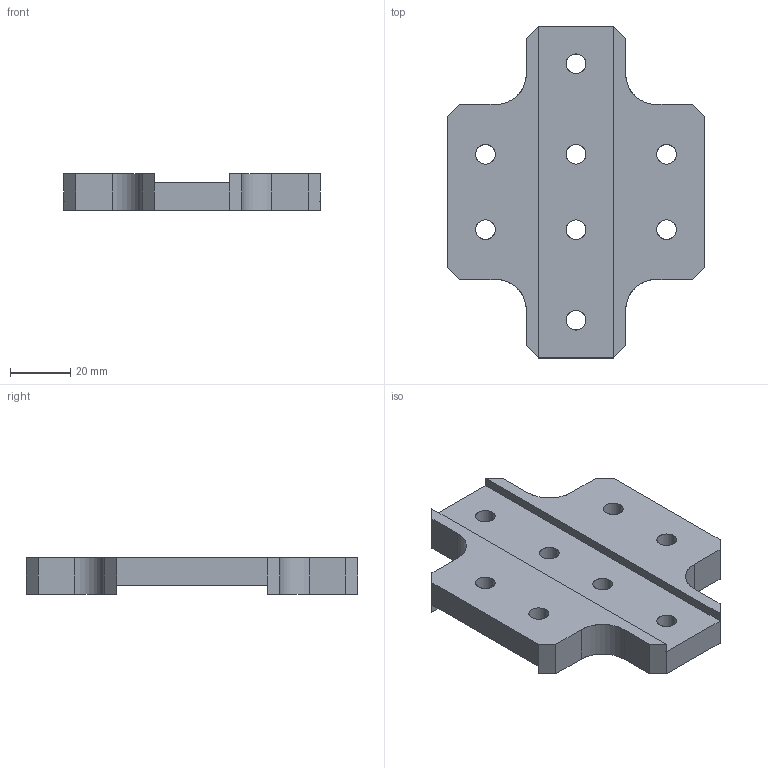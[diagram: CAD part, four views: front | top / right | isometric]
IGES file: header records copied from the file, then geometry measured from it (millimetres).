
Start section: SolidWorks IGES file using analytic representation for surfaces
Global section: file name: C:\Documents and Settings\CAD53\デスクトップ\IGES\N01911-401-1.IGS; native system: SolidWorks 2005 by SolidWorks Corporation; preprocessor: SolidWorks 2005 by SolidWorks Corporation; author: CAD53; date: 070530.085845; units: millimetre
Bounding box: 85 x 110 x 12 mm (x, y, z)
Surface area: 19121.5 mm2 (no closed solid volume)
Topology: 0 solids, 0 shells, 50 faces, 808 edges, 808 vertices
Faces by surface type: bspline 30, revolution 20
